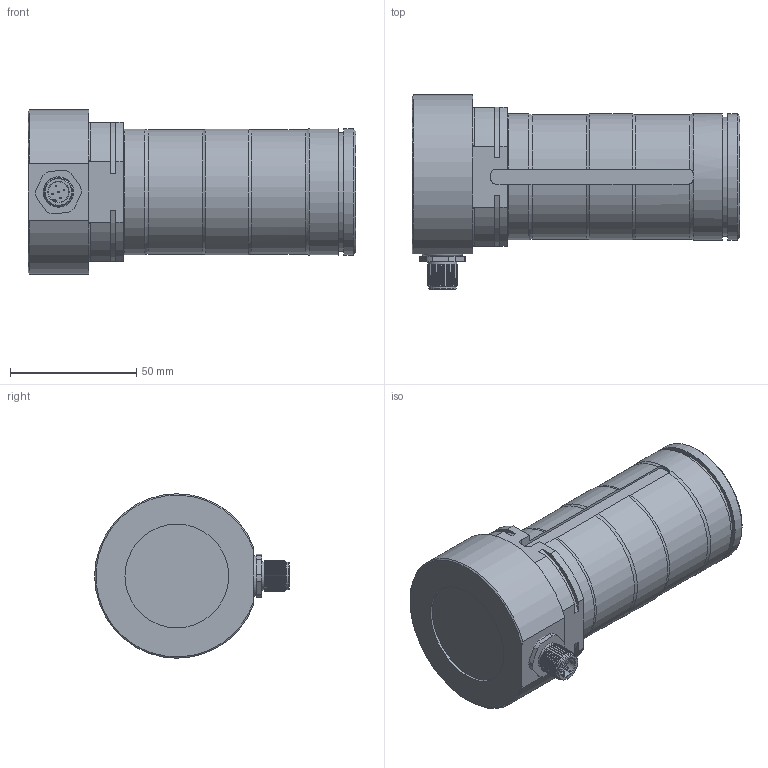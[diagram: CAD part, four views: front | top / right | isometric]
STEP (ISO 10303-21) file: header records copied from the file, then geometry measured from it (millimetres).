
FILE_DESCRIPTION(/* description */ ('Alibre Inc.'),/* implementation_level */ '2;1');
FILE_NAME(/* name */ 'export-D3A9C662-1D64-47B4-9D90-E0936A7F0929',/* time_stamp */ '2019-09-03T10:53:08+02:00',/* author */ (''),/* organization */ (''),/* preprocessor_version */ 'ST-DEVELOPER v17',/* originating_system */ 'Alibre',/* authorisation */ '');
FILE_SCHEMA (('CONFIG_CONTROL_DESIGN'));
Length unit declared in the file: centimetre
Bounding box: 129.65 x 77 x 65 mm (x, y, z)
Volume: 417240.1 mm3; surface area: 183801.6 mm2
Topology: 7 solids, 8 shells, 241 faces, 551 edges, 335 vertices
Faces by surface type: cylinder 85, cone 71, plane 69, torus 16
Full cylindrical faces by diameter (mm): 0.5 x10, 8 x2, 10 x1, 11 x1, 11.5 x1, 12 x21, 13 x2, 14.5 x1, 41 x1, 47 x1, 50 x2
Entity records: 6276 total; most frequent: CARTESIAN_POINT 1612, ORIENTED_EDGE 896, DIRECTION 763, EDGE_CURVE 442, EDGE_LOOP 356, FACE_BOUND 356, AXIS2_PLACEMENT_3D 344, VERTEX_POINT 320
